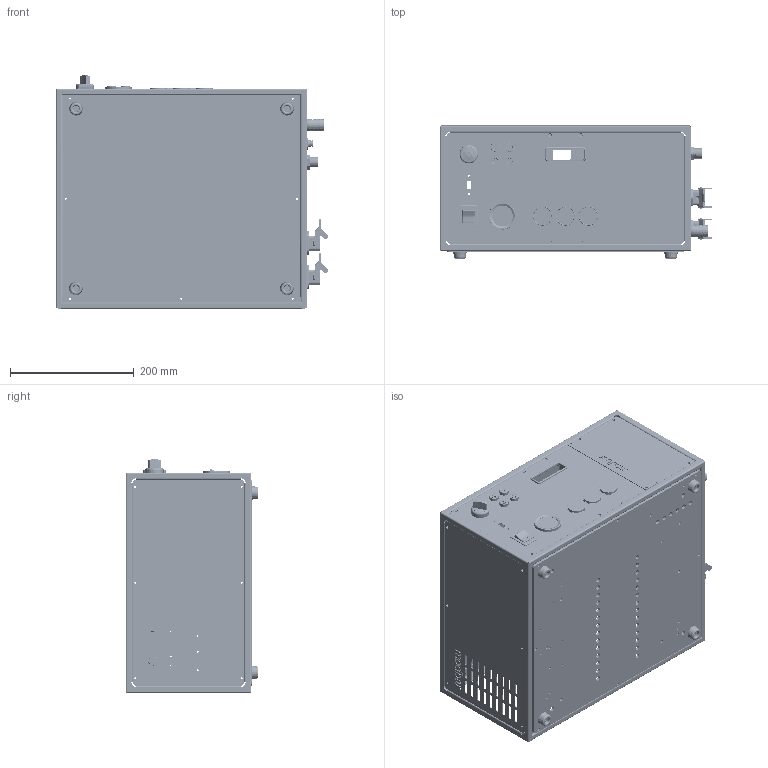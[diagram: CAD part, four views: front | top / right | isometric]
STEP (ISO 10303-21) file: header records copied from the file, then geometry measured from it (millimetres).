
FILE_DESCRIPTION (( 'STEP AP214' ), '1' );
FILE_NAME ('LM0013535_MODULE_MODBAR-AV.step', '2023-03-02T15:13:03', ( '' ), ( '' ), 'SwSTEP 2.0', 'SolidWorks 2021', '' );
FILE_SCHEMA (( 'AUTOMOTIVE_DESIGN' ));
Length unit declared in the file: millimetre
Products named in the file (53): LM0001507; LM0001509; LM0008848; LM0011710; LM0000183; LM0000013; LM0008639; LM0001746; LM0011811; LM0012370; LM0001559; LM0001603; LM0007269; LM0001560; LM0013017; LM0001543; LM0002194; LM0005131; LM0001506; LM0004838; LM0012368; LM0008632; LM0006929; LM0013535_MODULE_MODBAR-AV; LM0002363; LM0001562; LM0011809; LM0014317; LM0001557; LM0008637; LM0013282; LM0001744; LM0012910; LM0008635_E-0128-01_sg_OFF; LM0012174; LM0001510; LM0013016_Default_OFF; LM0011856; LM0012369; LM0008839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
Assembly tree (67 placements, depth 4):
  LM0013535_MODULE_MODBAR-AV
    LM0011856
      LM0011862
      LM0008848
    LM0008832
    LM0012066
    LM0008841
    LM0014317
    LM0007269
    LM0008839
    LM0013016_Default_OFF
      LM0008635_E-0128-01_sg_OFF
      LM0013017
    LM0008637
      LM0008639
      LM0008638
    LM0000013  x4
    LM0004838  x4
      LM0001507
        LM0001508
        LM0001510
        LM0001509
      LM0001506
    LM0011710
      LM0013636
        LM0005131
        LM0012910
      LM0001562
      LM0001557
      LM0001558
      LM0001559
      LM0001560
      LM0012919_Default_WH
    LM0013280  x3
      LM0011811
      LM0011809
    LM0008632
    LM0011804
    LM0012174  x2
    LM0012368  x2
      LM0012369
      LM0012370
    LM0001750  x3
    LM0000183
    LM0002363
    LM0001603
    LM0013282  x2
    LM0006929
    LM0006921
    LM0001744
    LM0001746
    LM0001543  x3
    LM0002194
Bounding box: 440.16 x 214.64 x 377.52 mm (x, y, z)
Volume: 1188364.5 mm3; surface area: 1357602.5 mm2
Topology: 90 solids, 94 shells, 5338 faces, 13898 edges, 9053 vertices
Faces by surface type: plane 2335, cylinder 1974, bspline 453, cone 319, torus 227, sphere 30
Entity records: 141149 total; most frequent: CARTESIAN_POINT 36817, ORIENTED_EDGE 20156, DIRECTION 19357, EDGE_CURVE 10078, AXIS2_PLACEMENT_3D 6867, VERTEX_POINT 6669, VECTOR 5623, LINE 5623
